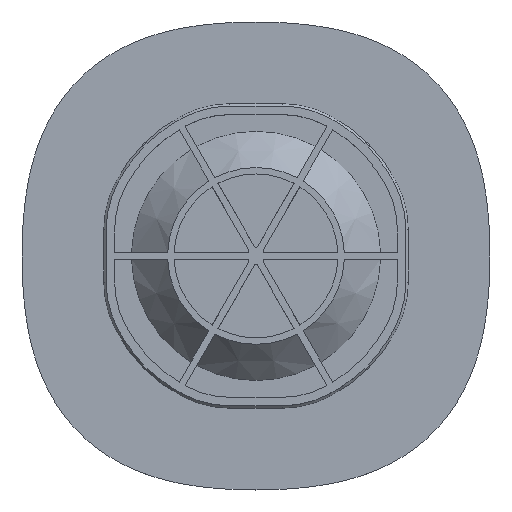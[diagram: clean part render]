
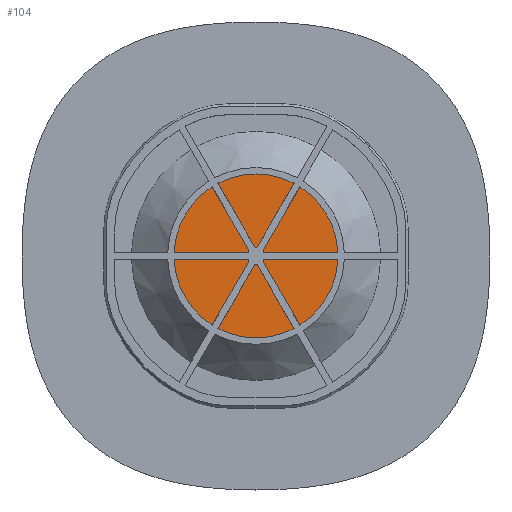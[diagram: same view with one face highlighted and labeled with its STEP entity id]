
A CAD part, top view. The second image highlights one B-rep face of the part: STEP entity #104.
In plain terms, the highlighted planar face has unit normal (0, 0, 1).
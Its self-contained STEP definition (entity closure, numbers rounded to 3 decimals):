
#104=ADVANCED_FACE('',(#439,#440),#441,.T.);
#439=FACE_BOUND('',#980,.T.);
#440=FACE_OUTER_BOUND('',#981,.T.);
#441=PLANE('',#982);
#980=EDGE_LOOP('',(#2071,#2072,#2073,#2074,#2075,#2076,#2077,#2078,#2079,#2080,#2081,#2082,#2083,#2084,#2085,#2086,#2087,#2088,#2089,#2090,#2091,#2092,#2093,#2094));
#981=EDGE_LOOP('',(#2095,#2096));
#982=AXIS2_PLACEMENT_3D('',#2097,#2098,#2099);
#2071=ORIENTED_EDGE('',*,*,#4049,.T.);
#2072=ORIENTED_EDGE('',*,*,#4085,.T.);
#2073=ORIENTED_EDGE('',*,*,#4086,.T.);
#2074=ORIENTED_EDGE('',*,*,#4087,.T.);
#2075=ORIENTED_EDGE('',*,*,#4082,.T.);
#2076=ORIENTED_EDGE('',*,*,#4088,.T.);
#2077=ORIENTED_EDGE('',*,*,#4089,.T.);
#2078=ORIENTED_EDGE('',*,*,#4079,.T.);
#2079=ORIENTED_EDGE('',*,*,#4076,.T.);
#2080=ORIENTED_EDGE('',*,*,#4090,.T.);
#2081=ORIENTED_EDGE('',*,*,#4091,.T.);
#2082=ORIENTED_EDGE('',*,*,#4072,.T.);
#2083=ORIENTED_EDGE('',*,*,#4069,.T.);
#2084=ORIENTED_EDGE('',*,*,#4092,.T.);
#2085=ORIENTED_EDGE('',*,*,#4093,.T.);
#2086=ORIENTED_EDGE('',*,*,#4065,.T.);
#2087=ORIENTED_EDGE('',*,*,#4062,.T.);
#2088=ORIENTED_EDGE('',*,*,#4094,.T.);
#2089=ORIENTED_EDGE('',*,*,#4095,.T.);
#2090=ORIENTED_EDGE('',*,*,#4058,.T.);
#2091=ORIENTED_EDGE('',*,*,#4055,.T.);
#2092=ORIENTED_EDGE('',*,*,#4096,.T.);
#2093=ORIENTED_EDGE('',*,*,#4097,.T.);
#2094=ORIENTED_EDGE('',*,*,#4052,.T.);
#2095=ORIENTED_EDGE('',*,*,#4098,.F.);
#2096=ORIENTED_EDGE('',*,*,#3708,.F.);
#2097=CARTESIAN_POINT('',(0.,0.,2.0));
#2098=DIRECTION('',(0.0,0.0,1.0));
#2099=DIRECTION('',(1.0,0.0,0.0));
#3708=EDGE_CURVE('',#4470,#4473,#4474,.T.);
#4049=EDGE_CURVE('',#5109,#5110,#5111,.T.);
#4052=EDGE_CURVE('',#5114,#5109,#5115,.T.);
#4055=EDGE_CURVE('',#5118,#5119,#5120,.T.);
#4058=EDGE_CURVE('',#5123,#5118,#5124,.T.);
#4062=EDGE_CURVE('',#5130,#5131,#5132,.T.);
#4065=EDGE_CURVE('',#5135,#5130,#5136,.T.);
#4069=EDGE_CURVE('',#5142,#5143,#5144,.T.);
#4072=EDGE_CURVE('',#5147,#5142,#5148,.T.);
#4076=EDGE_CURVE('',#5154,#5155,#5156,.T.);
#4079=EDGE_CURVE('',#5159,#5154,#5160,.T.);
#4082=EDGE_CURVE('',#5163,#5164,#5165,.T.);
#4085=EDGE_CURVE('',#5110,#5168,#5169,.T.);
#4086=EDGE_CURVE('',#5168,#5170,#5171,.T.);
#4087=EDGE_CURVE('',#5170,#5163,#5172,.T.);
#4088=EDGE_CURVE('',#5164,#5173,#5174,.T.);
#4089=EDGE_CURVE('',#5173,#5159,#5175,.T.);
#4090=EDGE_CURVE('',#5155,#5176,#5177,.T.);
#4091=EDGE_CURVE('',#5176,#5147,#5178,.T.);
#4092=EDGE_CURVE('',#5143,#5179,#5180,.T.);
#4093=EDGE_CURVE('',#5179,#5135,#5181,.T.);
#4094=EDGE_CURVE('',#5131,#5182,#5183,.T.);
#4095=EDGE_CURVE('',#5182,#5123,#5184,.T.);
#4096=EDGE_CURVE('',#5119,#5185,#5186,.T.);
#4097=EDGE_CURVE('',#5185,#5114,#5187,.T.);
#4098=EDGE_CURVE('',#4473,#4470,#5188,.T.);
#4470=VERTEX_POINT('',#5738);
#4473=VERTEX_POINT('',#5742);
#4474=CIRCLE('',#5743,23.5);
#5109=VERTEX_POINT('',#6917);
#5110=VERTEX_POINT('',#6918);
#5111=CIRCLE('',#6919,0.5);
#5114=VERTEX_POINT('',#6924);
#5115=LINE('',#6925,#6926);
#5118=VERTEX_POINT('',#6930);
#5119=VERTEX_POINT('',#6931);
#5120=CIRCLE('',#6932,0.5);
#5123=VERTEX_POINT('',#6937);
#5124=LINE('',#6938,#6939);
#5130=VERTEX_POINT('',#6955);
#5131=VERTEX_POINT('',#6956);
#5132=CIRCLE('',#6957,0.5);
#5135=VERTEX_POINT('',#6962);
#5136=LINE('',#6963,#6964);
#5142=VERTEX_POINT('',#6980);
#5143=VERTEX_POINT('',#6981);
#5144=CIRCLE('',#6982,0.5);
#5147=VERTEX_POINT('',#6987);
#5148=LINE('',#6988,#6989);
#5154=VERTEX_POINT('',#7005);
#5155=VERTEX_POINT('',#7006);
#5156=CIRCLE('',#7007,0.5);
#5159=VERTEX_POINT('',#7012);
#5160=LINE('',#7013,#7014);
#5163=VERTEX_POINT('',#7018);
#5164=VERTEX_POINT('',#7019);
#5165=CIRCLE('',#7020,0.5);
#5168=VERTEX_POINT('',#7025);
#5169=LINE('',#7026,#7027);
#5170=VERTEX_POINT('',#7028);
#5171=CIRCLE('',#7029,0.835);
#5172=LINE('',#7030,#7031);
#5173=VERTEX_POINT('',#7032);
#5174=LINE('',#7033,#7034);
#5175=CIRCLE('',#7035,0.835);
#5176=VERTEX_POINT('',#7036);
#5177=LINE('',#7037,#7038);
#5178=CIRCLE('',#7039,0.835);
#5179=VERTEX_POINT('',#7040);
#5180=LINE('',#7041,#7042);
#5181=CIRCLE('',#7043,0.835);
#5182=VERTEX_POINT('',#7044);
#5183=LINE('',#7045,#7046);
#5184=CIRCLE('',#7047,0.835);
#5185=VERTEX_POINT('',#7048);
#5186=LINE('',#7049,#7050);
#5187=CIRCLE('',#7051,0.835);
#5188=CIRCLE('',#7052,23.5);
#5738=CARTESIAN_POINT('',(23.5,0.0,2.));
#5742=CARTESIAN_POINT('',(-23.5,0.,2.0));
#5743=AXIS2_PLACEMENT_3D('',#8261,#8262,#8263);
#6917=CARTESIAN_POINT('',(1.879,1.585,2.0));
#6918=CARTESIAN_POINT('',(2.312,0.835,2.0));
#6919=AXIS2_PLACEMENT_3D('',#8758,#8759,#8760);
#6924=CARTESIAN_POINT('',(11.306,17.912,2.0));
#6925=CARTESIAN_POINT('',(5.354,7.604,2.0));
#6926=VECTOR('',#8763,1.0);
#6930=CARTESIAN_POINT('',(-0.433,2.42,2.0));
#6931=CARTESIAN_POINT('',(0.433,2.42,2.0));
#6932=AXIS2_PLACEMENT_3D('',#8768,#8769,#8770);
#6937=CARTESIAN_POINT('',(-9.859,18.747,2.0));
#6938=CARTESIAN_POINT('',(-3.908,8.439,2.0));
#6939=VECTOR('',#8773,1.0);
#6955=CARTESIAN_POINT('',(-2.312,0.835,2.0));
#6956=CARTESIAN_POINT('',(-1.879,1.585,2.0));
#6957=AXIS2_PLACEMENT_3D('',#8778,#8779,#8780);
#6962=CARTESIAN_POINT('',(-21.165,0.835,2.0));
#6963=CARTESIAN_POINT('',(-9.263,0.835,2.0));
#6964=VECTOR('',#8783,1.0);
#6980=CARTESIAN_POINT('',(-1.879,-1.585,2.0));
#6981=CARTESIAN_POINT('',(-2.312,-0.835,2.0));
#6982=AXIS2_PLACEMENT_3D('',#8788,#8789,#8790);
#6987=CARTESIAN_POINT('',(-11.306,-17.912,2.0));
#6988=CARTESIAN_POINT('',(-5.354,-7.604,2.0));
#6989=VECTOR('',#8793,1.0);
#7005=CARTESIAN_POINT('',(0.433,-2.42,2.0));
#7006=CARTESIAN_POINT('',(-0.433,-2.42,2.0));
#7007=AXIS2_PLACEMENT_3D('',#8798,#8799,#8800);
#7012=CARTESIAN_POINT('',(9.859,-18.747,2.0));
#7013=CARTESIAN_POINT('',(3.908,-8.439,2.0));
#7014=VECTOR('',#8803,1.0);
#7018=CARTESIAN_POINT('',(2.312,-0.835,2.0));
#7019=CARTESIAN_POINT('',(1.879,-1.585,2.0));
#7020=AXIS2_PLACEMENT_3D('',#8808,#8809,#8810);
#7025=CARTESIAN_POINT('',(21.165,0.835,2.0));
#7026=CARTESIAN_POINT('',(9.263,0.835,2.0));
#7027=VECTOR('',#8813,1.0);
#7028=CARTESIAN_POINT('',(21.165,-0.835,2.0));
#7029=AXIS2_PLACEMENT_3D('',#8814,#8815,#8816);
#7030=CARTESIAN_POINT('',(-9.263,-0.835,2.0));
#7031=VECTOR('',#8817,1.0);
#7032=CARTESIAN_POINT('',(11.306,-17.912,2.0));
#7033=CARTESIAN_POINT('',(5.354,-7.604,2.0));
#7034=VECTOR('',#8818,1.0);
#7035=AXIS2_PLACEMENT_3D('',#8819,#8820,#8821);
#7036=CARTESIAN_POINT('',(-9.859,-18.747,2.0));
#7037=CARTESIAN_POINT('',(-3.908,-8.439,2.0));
#7038=VECTOR('',#8822,1.0);
#7039=AXIS2_PLACEMENT_3D('',#8823,#8824,#8825);
#7040=CARTESIAN_POINT('',(-21.165,-0.835,2.0));
#7041=CARTESIAN_POINT('',(-9.263,-0.835,2.0));
#7042=VECTOR('',#8826,1.0);
#7043=AXIS2_PLACEMENT_3D('',#8827,#8828,#8829);
#7044=CARTESIAN_POINT('',(-11.306,17.912,2.0));
#7045=CARTESIAN_POINT('',(-5.354,7.604,2.0));
#7046=VECTOR('',#8830,1.0);
#7047=AXIS2_PLACEMENT_3D('',#8831,#8832,#8833);
#7048=CARTESIAN_POINT('',(9.859,18.747,2.0));
#7049=CARTESIAN_POINT('',(3.908,8.439,2.0));
#7050=VECTOR('',#8834,1.0);
#7051=AXIS2_PLACEMENT_3D('',#8835,#8836,#8837);
#7052=AXIS2_PLACEMENT_3D('',#8838,#8839,#8840);
#8261=CARTESIAN_POINT('',(0.0,0.0,2.0));
#8262=DIRECTION('',(0.0,0.0,-1.0));
#8263=DIRECTION('',(1.0,0.0,0.0));
#8758=CARTESIAN_POINT('',(2.312,1.335,2.0));
#8759=DIRECTION('',(0.0,0.0,1.0));
#8760=DIRECTION('',(-0.866,-0.5,0.0));
#8763=DIRECTION('',(-0.5,-0.866,0.0));
#8768=CARTESIAN_POINT('',(0.0,2.67,2.0));
#8769=DIRECTION('',(0.0,0.0,1.0));
#8770=DIRECTION('',(0.0,-1.0,0.0));
#8773=DIRECTION('',(0.5,-0.866,0.0));
#8778=CARTESIAN_POINT('',(-2.312,1.335,2.0));
#8779=DIRECTION('',(0.0,0.0,1.0));
#8780=DIRECTION('',(0.866,-0.5,0.0));
#8783=DIRECTION('',(1.0,0.,0.0));
#8788=CARTESIAN_POINT('',(-2.312,-1.335,2.0));
#8789=DIRECTION('',(0.0,-0.0,1.0));
#8790=DIRECTION('',(0.866,0.5,0.0));
#8793=DIRECTION('',(0.5,0.866,-0.0));
#8798=CARTESIAN_POINT('',(0.,-2.67,2.0));
#8799=DIRECTION('',(0.0,-0.0,1.0));
#8800=DIRECTION('',(0.,1.0,0.0));
#8803=DIRECTION('',(-0.5,0.866,0.0));
#8808=CARTESIAN_POINT('',(2.312,-1.335,2.0));
#8809=DIRECTION('',(0.0,0.0,1.0));
#8810=DIRECTION('',(-0.866,0.5,0.0));
#8813=DIRECTION('',(1.0,0.0,-0.0));
#8814=CARTESIAN_POINT('',(21.165,0.,2.0));
#8815=DIRECTION('',(-0.0,0.0,-1.0));
#8816=DIRECTION('',(-1.0,0.0,0.0));
#8817=DIRECTION('',(-1.0,0.,0.0));
#8818=DIRECTION('',(0.5,-0.866,0.0));
#8819=CARTESIAN_POINT('',(10.583,-18.329,2.0));
#8820=DIRECTION('',(-0.0,0.0,-1.0));
#8821=DIRECTION('',(-0.5,0.866,0.0));
#8822=DIRECTION('',(-0.5,-0.866,0.0));
#8823=CARTESIAN_POINT('',(-10.583,-18.329,2.0));
#8824=DIRECTION('',(0.0,0.0,-1.0));
#8825=DIRECTION('',(0.5,0.866,0.0));
#8826=DIRECTION('',(-1.0,0.,0.0));
#8827=CARTESIAN_POINT('',(-21.165,0.,2.0));
#8828=DIRECTION('',(0.0,-0.0,-1.0));
#8829=DIRECTION('',(1.0,0.,0.0));
#8830=DIRECTION('',(-0.5,0.866,0.0));
#8831=CARTESIAN_POINT('',(-10.583,18.329,2.0));
#8832=DIRECTION('',(0.0,-0.0,-1.0));
#8833=DIRECTION('',(0.5,-0.866,0.0));
#8834=DIRECTION('',(0.5,0.866,-0.0));
#8835=CARTESIAN_POINT('',(10.583,18.329,2.0));
#8836=DIRECTION('',(-0.0,0.0,-1.0));
#8837=DIRECTION('',(-0.5,-0.866,0.0));
#8838=CARTESIAN_POINT('',(0.0,0.0,2.0));
#8839=DIRECTION('',(0.0,0.0,-1.0));
#8840=DIRECTION('',(1.0,0.0,0.0));
